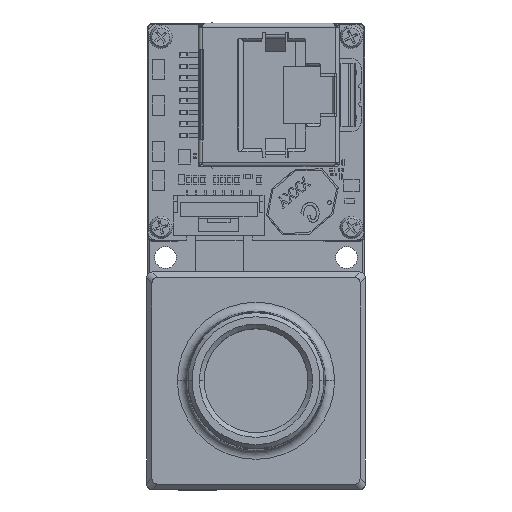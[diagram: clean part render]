
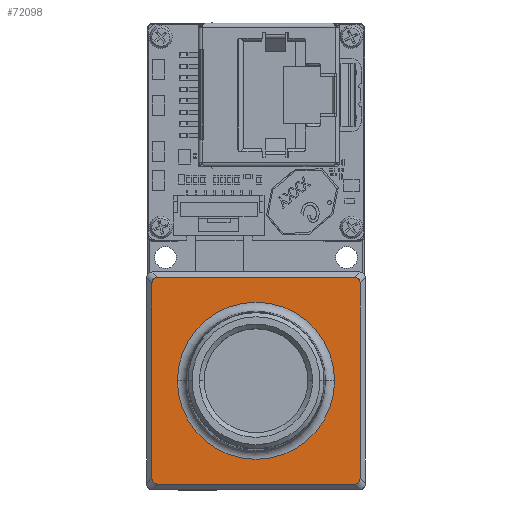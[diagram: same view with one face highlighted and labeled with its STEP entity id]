
A CAD part, top view. The second image highlights one B-rep face of the part: STEP entity #72098.
In plain terms, the highlighted planar face has unit normal (0, 0, 1).
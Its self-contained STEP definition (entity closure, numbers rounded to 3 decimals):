
#756 = FACE_OUTER_BOUND ( 'NONE', #21391, .T. ) ;
#4137 = CARTESIAN_POINT ( 'NONE',  ( 11.255, 11.4, 8. ) ) ;
#7385 = CARTESIAN_POINT ( 'NONE',  ( -10.874, -11.4, 8. ) ) ;
#7926 = EDGE_CURVE ( 'NONE', #36138, #87789, #74545, .T. ) ;
#8681 = CARTESIAN_POINT ( 'NONE',  ( 10.874, 11.4, 8. ) ) ;
#10360 = CARTESIAN_POINT ( 'NONE',  ( 0., 0., 8. ) ) ;
#10876 = VERTEX_POINT ( 'NONE', #145018 ) ;
#12001 = VERTEX_POINT ( 'NONE', #27844 ) ;
#19047 = CARTESIAN_POINT ( 'NONE',  ( -11.475, -11.178, 8. ) ) ;
#19586 = CARTESIAN_POINT ( 'NONE',  ( -11.255, 11.4, 8. ) ) ;
#19786 =( BOUNDED_CURVE ( )  B_SPLINE_CURVE ( 3, ( #145324, #19586, #46212, #122857 ),
 .UNSPECIFIED., .F., .T. ) 
 B_SPLINE_CURVE_WITH_KNOTS ( ( 4, 4 ),
 ( 2.623, 3.675 ),
 .UNSPECIFIED. ) 
 CURVE ( )  GEOMETRIC_REPRESENTATION_ITEM ( )  RATIONAL_B_SPLINE_CURVE ( ( 1., 0.91, 0.91, 1. ) ) 
 REPRESENTATION_ITEM ( '' )  );
#20369 = DIRECTION ( 'NONE',  ( -1., 0., 0. ) ) ;
#21391 = EDGE_LOOP ( 'NONE', ( #110079, #46104, #49023, #145777, #96324, #98535, #163053, #25683 ) ) ;
#25683 = ORIENTED_EDGE ( 'NONE', *, *, #81391, .T. ) ;
#27844 = CARTESIAN_POINT ( 'NONE',  ( -8.666, 0., 8. ) ) ;
#29050 = FACE_BOUND ( 'NONE', #127416, .T. ) ;
#30676 = CARTESIAN_POINT ( 'NONE',  ( -11.255, -11.4, 8. ) ) ;
#31280 = DIRECTION ( 'NONE',  ( -1., 0., 0. ) ) ;
#32653 = VERTEX_POINT ( 'NONE', #162493 ) ;
#33658 = EDGE_CURVE ( 'NONE', #103576, #45541, #46785, .T. ) ;
#36138 = VERTEX_POINT ( 'NONE', #53497 ) ;
#37293 =( BOUNDED_CURVE ( )  B_SPLINE_CURVE ( 3, ( #130703, #67416, #4137, #68239 ),
 .UNSPECIFIED., .F., .F. ) 
 B_SPLINE_CURVE_WITH_KNOTS ( ( 4, 4 ),
 ( 5.749, 6.802 ),
 .UNSPECIFIED. ) 
 CURVE ( )  GEOMETRIC_REPRESENTATION_ITEM ( )  RATIONAL_B_SPLINE_CURVE ( ( 1., 0.91, 0.91, 1. ) ) 
 REPRESENTATION_ITEM ( '' )  );
#39217 = VERTEX_POINT ( 'NONE', #143654 ) ;
#43952 = AXIS2_PLACEMENT_3D ( 'NONE', #10360, #61150, #20369 ) ;
#45541 = VERTEX_POINT ( 'NONE', #135038 ) ;
#46104 = ORIENTED_EDGE ( 'NONE', *, *, #57669, .T. ) ;
#46212 = CARTESIAN_POINT ( 'NONE',  ( -11.475, 11.178, 8. ) ) ;
#46340 = EDGE_CURVE ( 'NONE', #12001, #39217, #91865, .T. ) ;
#46342 = VECTOR ( 'NONE', #58027, 1000. ) ;
#46785 = LINE ( 'NONE', #131741, #95090 ) ;
#47884 = VECTOR ( 'NONE', #122930, 1000. ) ;
#49023 = ORIENTED_EDGE ( 'NONE', *, *, #7926, .T. ) ;
#51557 = PLANE ( 'NONE',  #159645 ) ;
#53379 = DIRECTION ( 'NONE',  ( -1., 0., 0. ) ) ;
#53497 = CARTESIAN_POINT ( 'NONE',  ( 11.475, -10.794, 8. ) ) ;
#54034 = CARTESIAN_POINT ( 'NONE',  ( 0., 0., 8. ) ) ;
#54177 = DIRECTION ( 'NONE',  ( 0., 0., -1. ) ) ;
#55951 = EDGE_CURVE ( 'NONE', #87789, #98653, #37293, .T. ) ;
#57669 = EDGE_CURVE ( 'NONE', #10876, #36138, #99102, .T. ) ;
#58027 = DIRECTION ( 'NONE',  ( 1., 0., 0. ) ) ;
#61150 = DIRECTION ( 'NONE',  ( 0., 0., -1. ) ) ;
#67416 = CARTESIAN_POINT ( 'NONE',  ( 11.475, 11.178, 8. ) ) ;
#68239 = CARTESIAN_POINT ( 'NONE',  ( 10.874, 11.4, 8. ) ) ;
#70651 = CARTESIAN_POINT ( 'NONE',  ( -11.475, -10.794, 8. ) ) ;
#72098 = ADVANCED_FACE ( 'NONE', ( #29050, #756 ), #51557, .F. ) ;
#72119 = CARTESIAN_POINT ( 'NONE',  ( 11.475, 0., 8. ) ) ;
#74545 = LINE ( 'NONE', #72119, #47884 ) ;
#75947 = EDGE_CURVE ( 'NONE', #98653, #98652, #158699, .T. ) ;
#79847 = DIRECTION ( 'NONE',  ( 0., 0., -1. ) ) ;
#81391 = EDGE_CURVE ( 'NONE', #45541, #32653, #142813, .T. ) ;
#87244 = ORIENTED_EDGE ( 'NONE', *, *, #46340, .T. ) ;
#87789 = VERTEX_POINT ( 'NONE', #152940 ) ;
#91865 = CIRCLE ( 'NONE', #43952, 8.666 ) ;
#95090 = VECTOR ( 'NONE', #95127, 1000. ) ;
#95127 = DIRECTION ( 'NONE',  ( 0., -1., 0. ) ) ;
#96324 = ORIENTED_EDGE ( 'NONE', *, *, #75947, .T. ) ;
#96484 = VECTOR ( 'NONE', #31280, 1000. ) ;
#96844 = EDGE_CURVE ( 'NONE', #39217, #12001, #158838, .T. ) ;
#98535 = ORIENTED_EDGE ( 'NONE', *, *, #110365, .T. ) ;
#98652 = VERTEX_POINT ( 'NONE', #121929 ) ;
#98653 = VERTEX_POINT ( 'NONE', #8681 ) ;
#99102 =( BOUNDED_CURVE ( )  B_SPLINE_CURVE ( 3, ( #130666, #109026, #121497, #158967 ),
 .UNSPECIFIED., .F., .T. ) 
 B_SPLINE_CURVE_WITH_KNOTS ( ( 4, 4 ),
 ( 5.765, 6.817 ),
 .UNSPECIFIED. ) 
 CURVE ( )  GEOMETRIC_REPRESENTATION_ITEM ( )  RATIONAL_B_SPLINE_CURVE ( ( 1., 0.91, 0.91, 1. ) ) 
 REPRESENTATION_ITEM ( '' )  );
#103576 = VERTEX_POINT ( 'NONE', #106591 ) ;
#106591 = CARTESIAN_POINT ( 'NONE',  ( -11.475, 10.794, 8. ) ) ;
#107992 = CARTESIAN_POINT ( 'NONE',  ( 0., -11.4, 8. ) ) ;
#109026 = CARTESIAN_POINT ( 'NONE',  ( 11.255, -11.4, 8. ) ) ;
#109598 = ORIENTED_EDGE ( 'NONE', *, *, #96844, .T. ) ;
#110079 = ORIENTED_EDGE ( 'NONE', *, *, #132238, .T. ) ;
#110365 = EDGE_CURVE ( 'NONE', #98652, #103576, #19786, .T. ) ;
#110953 = AXIS2_PLACEMENT_3D ( 'NONE', #142426, #54177, #53379 ) ;
#121497 = CARTESIAN_POINT ( 'NONE',  ( 11.475, -11.178, 8. ) ) ;
#121929 = CARTESIAN_POINT ( 'NONE',  ( -10.874, 11.4, 8. ) ) ;
#122857 = CARTESIAN_POINT ( 'NONE',  ( -11.475, 10.794, 8. ) ) ;
#122930 = DIRECTION ( 'NONE',  ( 0., 1., 0. ) ) ;
#127416 = EDGE_LOOP ( 'NONE', ( #87244, #109598 ) ) ;
#130625 = DIRECTION ( 'NONE',  ( -1., 0., 0. ) ) ;
#130666 = CARTESIAN_POINT ( 'NONE',  ( 10.874, -11.4, 8. ) ) ;
#130703 = CARTESIAN_POINT ( 'NONE',  ( 11.475, 10.794, 8. ) ) ;
#131741 = CARTESIAN_POINT ( 'NONE',  ( -11.475, 0., 8. ) ) ;
#132238 = EDGE_CURVE ( 'NONE', #32653, #10876, #133788, .T. ) ;
#133788 = LINE ( 'NONE', #107992, #46342 ) ;
#135038 = CARTESIAN_POINT ( 'NONE',  ( -11.475, -10.794, 8. ) ) ;
#142426 = CARTESIAN_POINT ( 'NONE',  ( 0., 0., 8. ) ) ;
#142813 =( BOUNDED_CURVE ( )  B_SPLINE_CURVE ( 3, ( #70651, #19047, #30676, #7385 ),
 .UNSPECIFIED., .F., .T. ) 
 B_SPLINE_CURVE_WITH_KNOTS ( ( 4, 4 ),
 ( 2.608, 3.66 ),
 .UNSPECIFIED. ) 
 CURVE ( )  GEOMETRIC_REPRESENTATION_ITEM ( )  RATIONAL_B_SPLINE_CURVE ( ( 1., 0.91, 0.91, 1. ) ) 
 REPRESENTATION_ITEM ( '' )  );
#143654 = CARTESIAN_POINT ( 'NONE',  ( 8.666, 0., 8. ) ) ;
#145018 = CARTESIAN_POINT ( 'NONE',  ( 10.874, -11.4, 8. ) ) ;
#145324 = CARTESIAN_POINT ( 'NONE',  ( -10.874, 11.4, 8. ) ) ;
#145372 = CARTESIAN_POINT ( 'NONE',  ( 0., 11.4, 8. ) ) ;
#145777 = ORIENTED_EDGE ( 'NONE', *, *, #55951, .T. ) ;
#152940 = CARTESIAN_POINT ( 'NONE',  ( 11.475, 10.794, 8. ) ) ;
#158699 = LINE ( 'NONE', #145372, #96484 ) ;
#158838 = CIRCLE ( 'NONE', #110953, 8.666 ) ;
#158967 = CARTESIAN_POINT ( 'NONE',  ( 11.475, -10.794, 8. ) ) ;
#159645 = AXIS2_PLACEMENT_3D ( 'NONE', #54034, #79847, #130625 ) ;
#162493 = CARTESIAN_POINT ( 'NONE',  ( -10.874, -11.4, 8. ) ) ;
#163053 = ORIENTED_EDGE ( 'NONE', *, *, #33658, .T. ) ;
